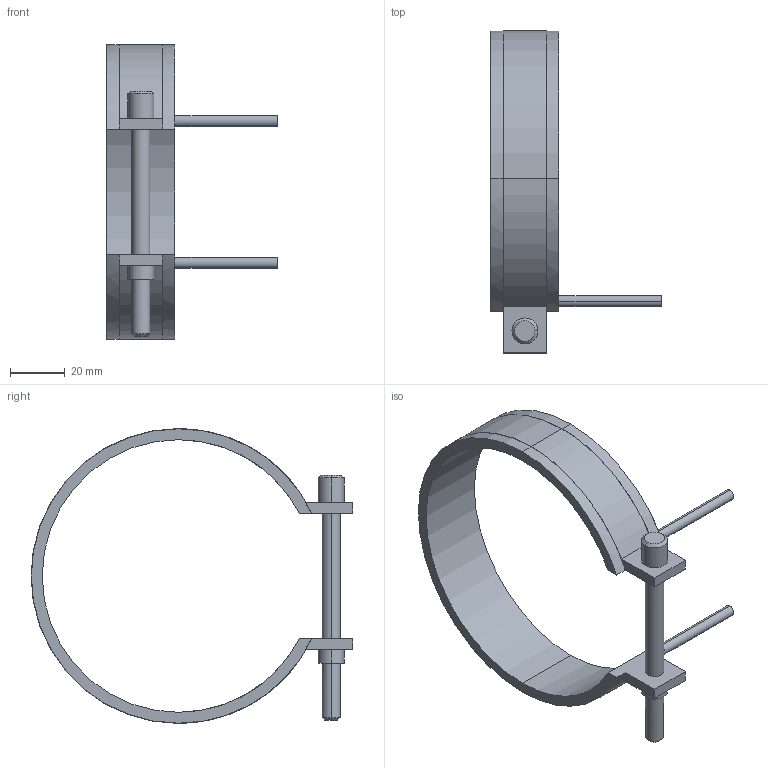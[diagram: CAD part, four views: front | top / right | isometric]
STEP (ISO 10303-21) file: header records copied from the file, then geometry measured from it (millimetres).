
FILE_DESCRIPTION(('CATIA V5 STEP Exchange'),'2;1');
FILE_NAME('C:\Users\Utente\Desktop\IO LAVORO\3D X SITO CF\X SITO\PLASTICA\RF2\14100025.stp','2021-04-03T08:56:48+00:00',('none'),('none'),'CATIA Version 5 Release 20 GA (IN-10)','CATIA V5 STEP AP203','none');
FILE_SCHEMA(('CONFIG_CONTROL_DESIGN'));
Length unit declared in the file: millimetre
Products named in the file (1): 14100025
Bounding box: 62.5 x 118.1 x 108.2 mm (x, y, z)
Volume: 34754.3 mm3; surface area: 20442.5 mm2
Topology: 1 solids, 1 shells, 45 faces, 116 edges, 76 vertices
Faces by surface type: cylinder 24, plane 17, cone 4
Entity records: 1400 total; most frequent: CARTESIAN_POINT 274, ORIENTED_EDGE 232, DIRECTION 196, EDGE_CURVE 116, AXIS2_PLACEMENT_3D 104, VERTEX_POINT 76, CIRCLE 62, VECTOR 52
